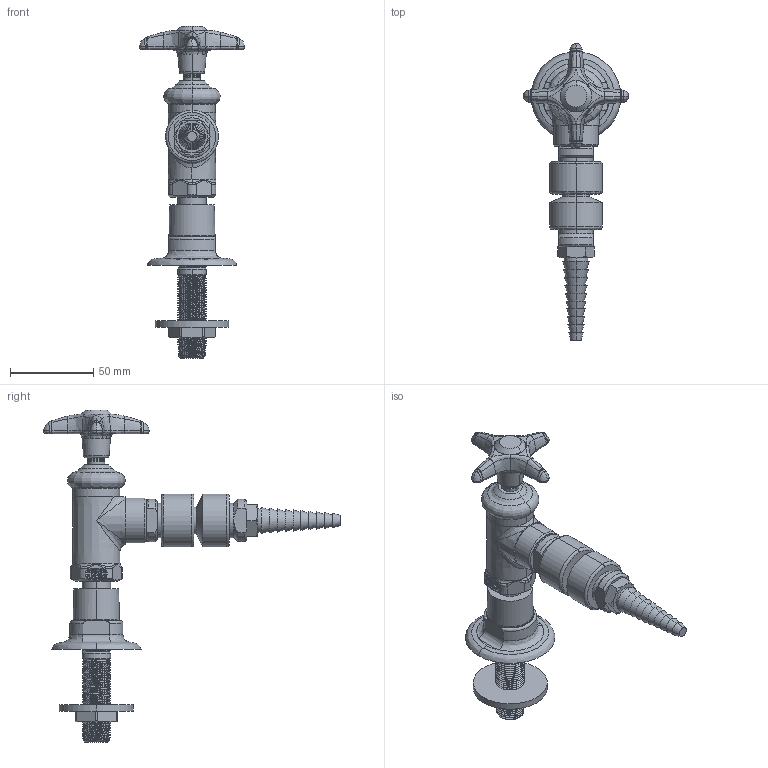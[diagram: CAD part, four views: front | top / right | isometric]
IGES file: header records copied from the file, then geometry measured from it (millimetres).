
Start section:  PTC IGES file: LWV2-C41-55.igs
Global section: file name: LWV2-C41-55.igs; native system: Creo Parametric by PTC Inc.; preprocessor: 2014500; author: usch_engrender; organization: Unknown; date: 20151118.094410; units: inch
Bounding box: 63.42 x 178.42 x 199.45 mm (x, y, z)
Volume: 165002.9 mm3; surface area: 39056.4 mm2
Topology: 1 solids, 3 shells, 609 faces, 1441 edges, 867 vertices
Faces by surface type: bspline 311, revolution 298
